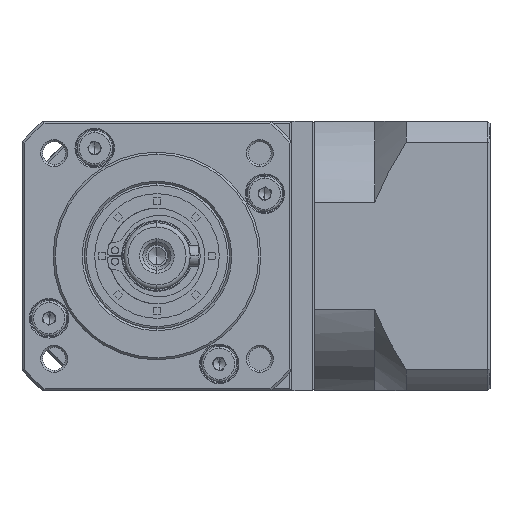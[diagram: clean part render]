
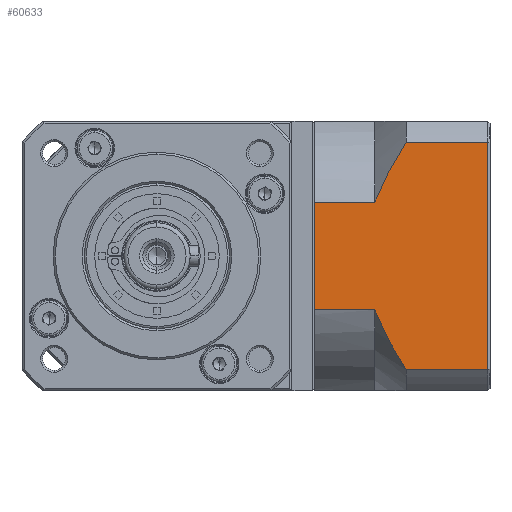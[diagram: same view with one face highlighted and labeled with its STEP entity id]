
A CAD part, left-side view. The second image highlights one B-rep face of the part: STEP entity #60633.
In plain terms, the highlighted planar face has unit normal (-1, 0, 0).
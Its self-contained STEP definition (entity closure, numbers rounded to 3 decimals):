
#3501 = CARTESIAN_POINT ( 'NONE',  ( -21.287, -86.778, -130.634 ) ) ;
#4296 = ORIENTED_EDGE ( 'NONE', *, *, #94463, .T. ) ;
#4409 = LINE ( 'NONE', #36204, #140699 ) ;
#6138 = CARTESIAN_POINT ( 'NONE',  ( -21.287, -92.987, -141.863 ) ) ;
#6701 = EDGE_CURVE ( 'NONE', #16566, #78404, #41143, .T. ) ;
#8199 = CARTESIAN_POINT ( 'NONE',  ( -21.287, -86.429, -98.949 ) ) ;
#11262 = LINE ( 'NONE', #90354, #45237 ) ;
#16375 = CARTESIAN_POINT ( 'NONE',  ( -21.287, -88.233, -133.7 ) ) ;
#16566 = VERTEX_POINT ( 'NONE', #138602 ) ;
#16878 = EDGE_CURVE ( 'NONE', #114085, #55402, #104168, .T. ) ;
#19128 = CARTESIAN_POINT ( 'NONE',  ( -21.287, -112.687, -141.863 ) ) ;
#22700 = EDGE_CURVE ( 'NONE', #36358, #55402, #11262, .T. ) ;
#22813 = EDGE_CURVE ( 'NONE', #114085, #32022, #145408, .T. ) ;
#28378 = EDGE_CURVE ( 'NONE', #84873, #78404, #79262, .T. ) ;
#29034 = VECTOR ( 'NONE', #136768, 1000. ) ;
#29270 = CARTESIAN_POINT ( 'NONE',  ( -21.287, -91.526, -139.595 ) ) ;
#30449 = CARTESIAN_POINT ( 'NONE',  ( -21.287, -92.254, -88.229 ) ) ;
#32022 = VERTEX_POINT ( 'NONE', #63378 ) ;
#33043 = LINE ( 'NONE', #123936, #29034 ) ;
#36204 = CARTESIAN_POINT ( 'NONE',  ( -21.287, -112.687, -146.977 ) ) ;
#36358 = VERTEX_POINT ( 'NONE', #19128 ) ;
#39939 = CARTESIAN_POINT ( 'NONE',  ( -21.287, -85.487, -101.487 ) ) ;
#41143 = B_SPLINE_CURVE_WITH_KNOTS ( 'NONE', 3,
 ( #146405, #30449, #56835, #69670, #161655, #84986, #8199, #97848 ),
 .UNSPECIFIED., .F., .F.,
 ( 4, 2, 2, 4 ),
 ( 0.058, 0.062, 0.066, 0.074 ),
 .UNSPECIFIED. ) ;
#45237 = VECTOR ( 'NONE', #88168, 1000. ) ;
#45318 = VECTOR ( 'NONE', #94017, 1000. ) ;
#46960 = EDGE_CURVE ( 'NONE', #16566, #98859, #147595, .T. ) ;
#55402 = VERTEX_POINT ( 'NONE', #6138 ) ;
#56342 = ORIENTED_EDGE ( 'NONE', *, *, #22700, .F. ) ;
#56835 = CARTESIAN_POINT ( 'NONE',  ( -21.287, -91.539, -89.38 ) ) ;
#60633 = ADVANCED_FACE ( 'NONE', ( #99162 ), #91093, .F. ) ;
#63378 = CARTESIAN_POINT ( 'NONE',  ( -21.287, -70.987, -127.467 ) ) ;
#63950 = AXIS2_PLACEMENT_3D ( 'NONE', #65739, #155389, #78696 ) ;
#65739 = CARTESIAN_POINT ( 'NONE',  ( -21.287, -113.187, -146.977 ) ) ;
#66687 = CARTESIAN_POINT ( 'NONE',  ( -21.287, -112.687, -87.091 ) ) ;
#66788 = CARTESIAN_POINT ( 'NONE',  ( -21.287, -85.978, -128.748 ) ) ;
#69670 = CARTESIAN_POINT ( 'NONE',  ( -21.287, -90.154, -91.715 ) ) ;
#77359 = VECTOR ( 'NONE', #159107, 1000. ) ;
#78404 = VERTEX_POINT ( 'NONE', #102027 ) ;
#78696 = DIRECTION ( 'NONE',  ( 0., 1., 0. ) ) ;
#79262 = LINE ( 'NONE', #39939, #147355 ) ;
#80015 = EDGE_LOOP ( 'NONE', ( #56342, #160723, #84657, #106821, #81180, #4296, #133269, #161044 ) ) ;
#80297 = CARTESIAN_POINT ( 'NONE',  ( -21.287, -86.504, -130.01 ) ) ;
#81180 = ORIENTED_EDGE ( 'NONE', *, *, #28378, .F. ) ;
#84657 = ORIENTED_EDGE ( 'NONE', *, *, #46960, .F. ) ;
#84873 = VERTEX_POINT ( 'NONE', #149801 ) ;
#84986 = CARTESIAN_POINT ( 'NONE',  ( -21.287, -87.574, -96.497 ) ) ;
#88168 = DIRECTION ( 'NONE',  ( 0., 1., 0. ) ) ;
#90354 = CARTESIAN_POINT ( 'NONE',  ( -21.287, -85.487, -141.863 ) ) ;
#91093 = PLANE ( 'NONE',  #63950 ) ;
#93228 = CARTESIAN_POINT ( 'NONE',  ( -21.287, -87.628, -132.488 ) ) ;
#94017 = DIRECTION ( 'NONE',  ( 0., -1., 0. ) ) ;
#94463 = EDGE_CURVE ( 'NONE', #84873, #32022, #33043, .T. ) ;
#97848 = CARTESIAN_POINT ( 'NONE',  ( -21.287, -85.487, -101.487 ) ) ;
#98859 = VERTEX_POINT ( 'NONE', #66687 ) ;
#99162 = FACE_OUTER_BOUND ( 'NONE', #80015, .T. ) ;
#102027 = CARTESIAN_POINT ( 'NONE',  ( -21.287, -85.487, -101.487 ) ) ;
#104168 = B_SPLINE_CURVE_WITH_KNOTS ( 'NONE', 3,
 ( #157016, #131221, #66788, #80297, #3501, #93228, #16375, #106101, #29270, #118868 ),
 .UNSPECIFIED., .F., .F.,
 ( 4, 2, 2, 2, 4 ),
 ( 0.101, 0.103, 0.105, 0.109, 0.117 ),
 .UNSPECIFIED. ) ;
#106101 = CARTESIAN_POINT ( 'NONE',  ( -21.287, -90.138, -137.281 ) ) ;
#106821 = ORIENTED_EDGE ( 'NONE', *, *, #6701, .T. ) ;
#110716 = EDGE_CURVE ( 'NONE', #36358, #98859, #4409, .T. ) ;
#114085 = VERTEX_POINT ( 'NONE', #147402 ) ;
#118868 = CARTESIAN_POINT ( 'NONE',  ( -21.287, -92.987, -141.863 ) ) ;
#123936 = CARTESIAN_POINT ( 'NONE',  ( -21.287, -70.987, -146.977 ) ) ;
#129644 = DIRECTION ( 'NONE',  ( 0., -1., 0. ) ) ;
#131221 = CARTESIAN_POINT ( 'NONE',  ( -21.287, -85.726, -128.109 ) ) ;
#133269 = ORIENTED_EDGE ( 'NONE', *, *, #22813, .F. ) ;
#136768 = DIRECTION ( 'NONE',  ( 0., 0., -1. ) ) ;
#138602 = CARTESIAN_POINT ( 'NONE',  ( -21.287, -92.987, -87.091 ) ) ;
#140699 = VECTOR ( 'NONE', #164554, 1000. ) ;
#145408 = LINE ( 'NONE', #145586, #77359 ) ;
#145586 = CARTESIAN_POINT ( 'NONE',  ( -21.287, -85.487, -127.467 ) ) ;
#146405 = CARTESIAN_POINT ( 'NONE',  ( -21.287, -92.987, -87.091 ) ) ;
#147355 = VECTOR ( 'NONE', #129644, 1000. ) ;
#147402 = CARTESIAN_POINT ( 'NONE',  ( -21.287, -85.487, -127.467 ) ) ;
#147595 = LINE ( 'NONE', #157845, #45318 ) ;
#149801 = CARTESIAN_POINT ( 'NONE',  ( -21.287, -70.987, -101.487 ) ) ;
#155389 = DIRECTION ( 'NONE',  ( 1., 0., 0. ) ) ;
#157016 = CARTESIAN_POINT ( 'NONE',  ( -21.287, -85.487, -127.467 ) ) ;
#157845 = CARTESIAN_POINT ( 'NONE',  ( -21.287, -85.487, -87.091 ) ) ;
#159107 = DIRECTION ( 'NONE',  ( 0., 1., 0. ) ) ;
#160723 = ORIENTED_EDGE ( 'NONE', *, *, #110716, .T. ) ;
#161044 = ORIENTED_EDGE ( 'NONE', *, *, #16878, .T. ) ;
#161655 = CARTESIAN_POINT ( 'NONE',  ( -21.287, -89.484, -92.901 ) ) ;
#164554 = DIRECTION ( 'NONE',  ( 0., 0., 1. ) ) ;
